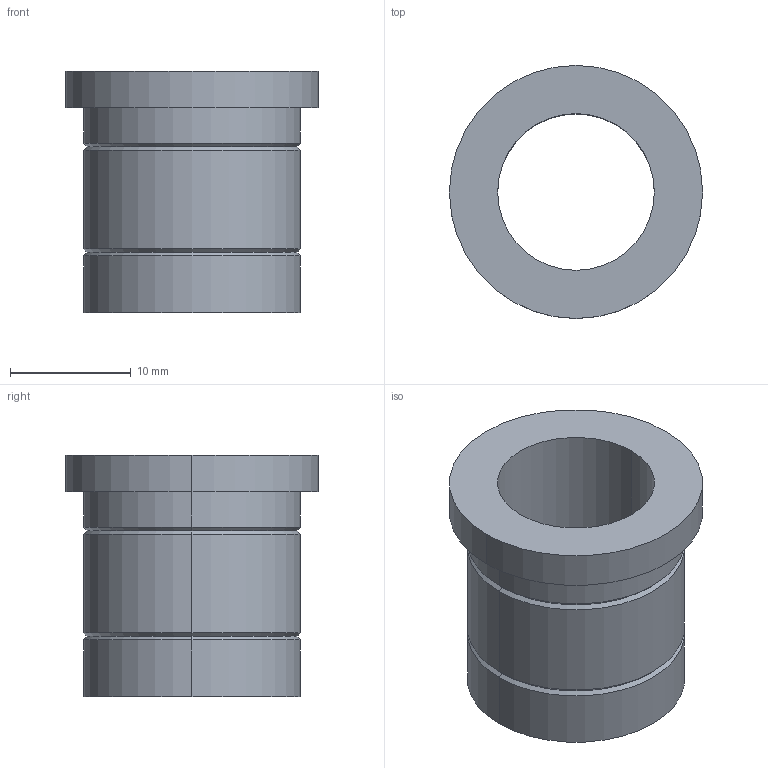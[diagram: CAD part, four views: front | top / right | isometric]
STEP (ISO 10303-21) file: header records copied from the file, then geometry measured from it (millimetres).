
FILE_DESCRIPTION(/* description */ (''),/* implementation_level */ '2;1');
FILE_NAME(/* name */ '3d_sgbt13-20_00014_r00.stp',/* time_stamp */ '2011-01-10T14:11:12+09:00',/* author */ ('MISUMI'),/* organization */ (''),/* preprocessor_version */ 'ST-DEVELOPER v11',/* originating_system */ 'UGS - NX 5.0',/* authorisation */ '');
FILE_SCHEMA (('CONFIG_CONTROL_DESIGN'));
Length unit declared in the file: millimetre
Products named in the file (1): 3d_sgbt13-20_00014_r00
Bounding box: 21 x 21 x 20 mm (x, y, z)
Volume: 2700.3 mm3; surface area: 2429.8 mm2
Topology: 1 solids, 1 shells, 21 faces, 42 edges, 24 vertices
Faces by surface type: cylinder 10, cone 8, plane 3
Entity records: 634 total; most frequent: DIRECTION 110, CARTESIAN_POINT 88, ORIENTED_EDGE 84, AXIS2_PLACEMENT_3D 46, EDGE_CURVE 42, EDGE_LOOP 24, VERTEX_POINT 24, CIRCLE 24
